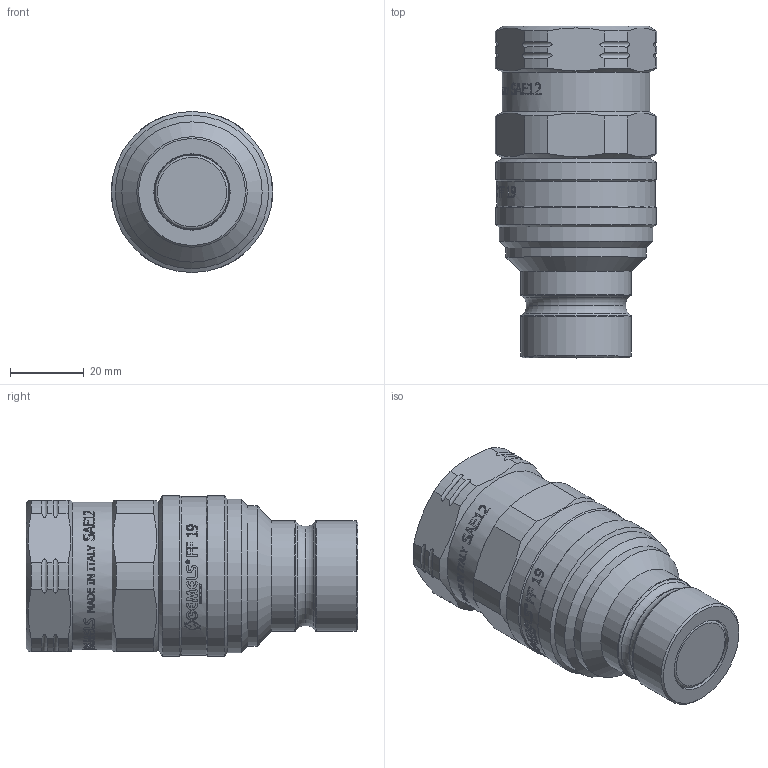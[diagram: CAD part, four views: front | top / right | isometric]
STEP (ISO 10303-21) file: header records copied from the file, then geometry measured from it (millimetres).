
FILE_DESCRIPTION(/* description */ (''),/* implementation_level */ '2;1');
FILE_NAME(/* name */ 'NC05S040005.stp',/* time_stamp */ '2024-11-19T11:51:49+01:00',/* author */ ('thomas.belotti'),/* organization */ (''),/* preprocessor_version */ 'ST-DEVELOPER v20',/* originating_system */ 'Autodesk Inventor 2024',/* authorisation */ '');
FILE_SCHEMA (('AUTOMOTIVE_DESIGN { 1 0 10303 214 3 1 1 }'));
Length unit declared in the file: millimetre
Products named in the file (1): Parte20
Bounding box: 43.73 x 90 x 43.7 mm (x, y, z)
Volume: 94848.2 mm3; surface area: 16231.1 mm2
Topology: 1 solids, 1 shells, 1250 faces, 3523 edges, 2344 vertices
Faces by surface type: bspline 742, plane 373, cylinder 100, torus 18, cone 17
Full cylindrical faces by diameter (mm): 20.7 x1, 24.91 x1, 26.9 x1, 27.5 x1, 29.95 x2, 37 x1, 37.3 x1, 38.05 x1, 40 x1, 41.6 x1, 43 x1, 43.7 x2
Entity records: 53185 total; most frequent: CARTESIAN_POINT 24345, ORIENTED_EDGE 7046, EDGE_CURVE 3523, DIRECTION 3489, VERTEX_POINT 2344, B_SPLINE_CURVE_WITH_KNOTS 1539, LINE 1441, VECTOR 1441
